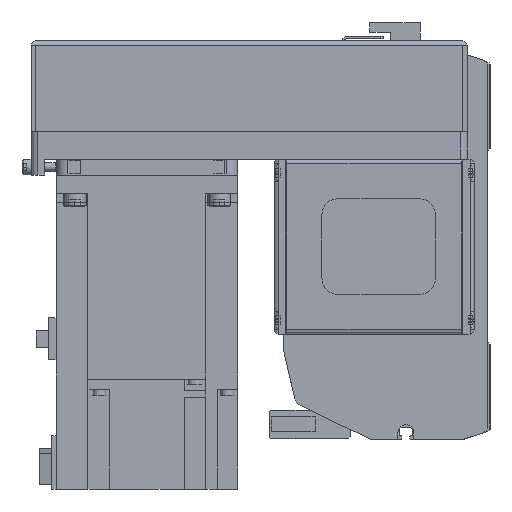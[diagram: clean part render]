
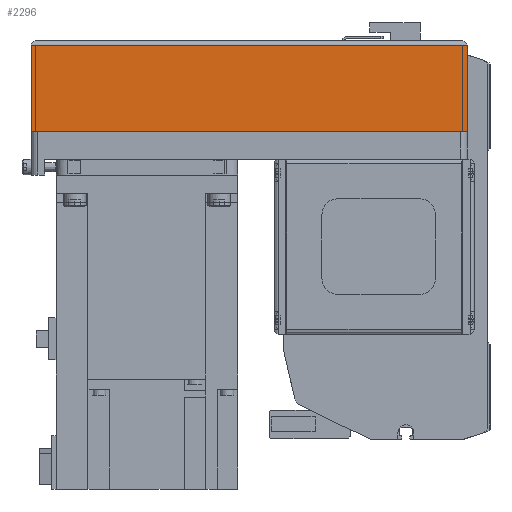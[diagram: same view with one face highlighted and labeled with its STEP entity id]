
A CAD part, left-side view. The second image highlights one B-rep face of the part: STEP entity #2296.
In plain terms, the highlighted planar face has unit normal (-1, 0, 0) as drawn and (0, 1, 0) by its records, which use the part's own axes.
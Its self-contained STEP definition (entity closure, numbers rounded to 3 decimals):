
#2296 = ADVANCED_FACE( '', ( #5293 ), #5294, .T. );
#5293 = FACE_OUTER_BOUND( '', #9035, .T. );
#5294 = PLANE( '', #9036 );
#9035 = EDGE_LOOP( '', ( #15663, #15664, #15665, #15666 ) );
#9036 = AXIS2_PLACEMENT_3D( '', #15667, #15668, #15669 );
#15663 = ORIENTED_EDGE( '', *, *, #22301, .F. );
#15664 = ORIENTED_EDGE( '', *, *, #22922, .F. );
#15665 = ORIENTED_EDGE( '', *, *, #23380, .T. );
#15666 = ORIENTED_EDGE( '', *, *, #21671, .T. );
#15667 = CARTESIAN_POINT( '', ( -192., 40., -50. ) );
#15668 = DIRECTION( '', ( 0., 1., 0. ) );
#15669 = DIRECTION( '', ( 0., 0., 1. ) );
#21671 = EDGE_CURVE( '', #26065, #26063, #26066, .T. );
#22301 = EDGE_CURVE( '', #27125, #26063, #27127, .T. );
#22922 = EDGE_CURVE( '', #27297, #27125, #28099, .T. );
#23380 = EDGE_CURVE( '', #27297, #26065, #28765, .T. );
#26063 = VERTEX_POINT( '', #32578 );
#26065 = VERTEX_POINT( '', #32581 );
#26066 = LINE( '', #32582, #32583 );
#27125 = VERTEX_POINT( '', #34159 );
#27127 = LINE( '', #34162, #34163 );
#27297 = VERTEX_POINT( '', #34429 );
#28099 = LINE( '', #36083, #36084 );
#28765 = LINE( '', #37003, #37004 );
#32578 = CARTESIAN_POINT( '', ( 0., 40., -12.1 ) );
#32581 = CARTESIAN_POINT( '', ( -192., 40., -12.1 ) );
#32582 = CARTESIAN_POINT( '', ( -192., 40., -12.1 ) );
#32583 = VECTOR( '', #40286, 1000. );
#34159 = CARTESIAN_POINT( '', ( 0., 40., -50. ) );
#34162 = CARTESIAN_POINT( '', ( 0., 40., -50. ) );
#34163 = VECTOR( '', #41134, 1000. );
#34429 = CARTESIAN_POINT( '', ( -192., 40., -50. ) );
#36083 = CARTESIAN_POINT( '', ( -192., 40., -50. ) );
#36084 = VECTOR( '', #41891, 1000. );
#37003 = CARTESIAN_POINT( '', ( -192., 40., -50. ) );
#37004 = VECTOR( '', #42438, 1000. );
#40286 = DIRECTION( '', ( 1., 0., 0. ) );
#41134 = DIRECTION( '', ( 0., 0., 1. ) );
#41891 = DIRECTION( '', ( 1., 0., 0. ) );
#42438 = DIRECTION( '', ( 0., 0., 1. ) );
